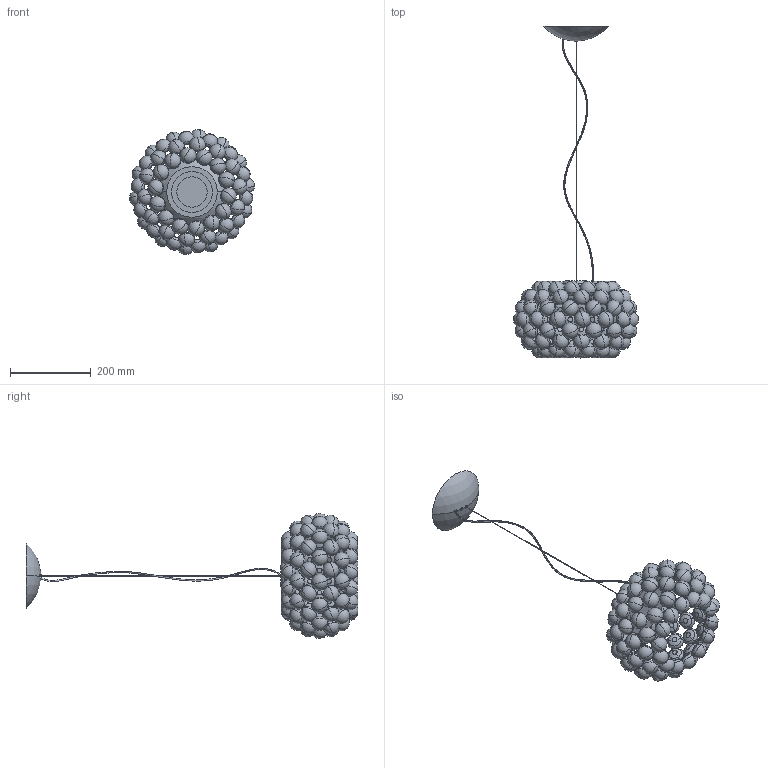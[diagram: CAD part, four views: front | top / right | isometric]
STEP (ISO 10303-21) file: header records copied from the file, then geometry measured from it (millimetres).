
FILE_DESCRIPTION (( 'STEP AP214' ), '1' );
FILE_NAME ('311_PICCOLA_S_LD_3D.STEP', '2021-05-21T09:02:51', ( '' ), ( '' ), 'SwSTEP 2.0', 'SolidWorks 2021', '' );
FILE_SCHEMA (( 'AUTOMOTIVE_DESIGN' ));
Length unit declared in the file: millimetre
Products named in the file (1): 311_PICCOLA_S_LD_3D
Bounding box: 309.35 x 820.41 x 309.26 mm (x, y, z)
Volume: 3250351.6 mm3; surface area: 518594.7 mm2
Topology: 100 solids, 100 shells, 923 faces, 2056 edges, 1140 vertices
Faces by surface type: sphere 396, cylinder 204, torus 202, plane 109, cone 6, bspline 6
Entity records: 35128 total; most frequent: DIRECTION 4899, CARTESIAN_POINT 4897, ORIENTED_EDGE 3328, AXIS2_PLACEMENT_3D 2343, EDGE_CURVE 1664, CIRCLE 1425, UNCERTAINTY_MEASURE_WITH_UNIT 1025, FILL_AREA_STYLE 1024
